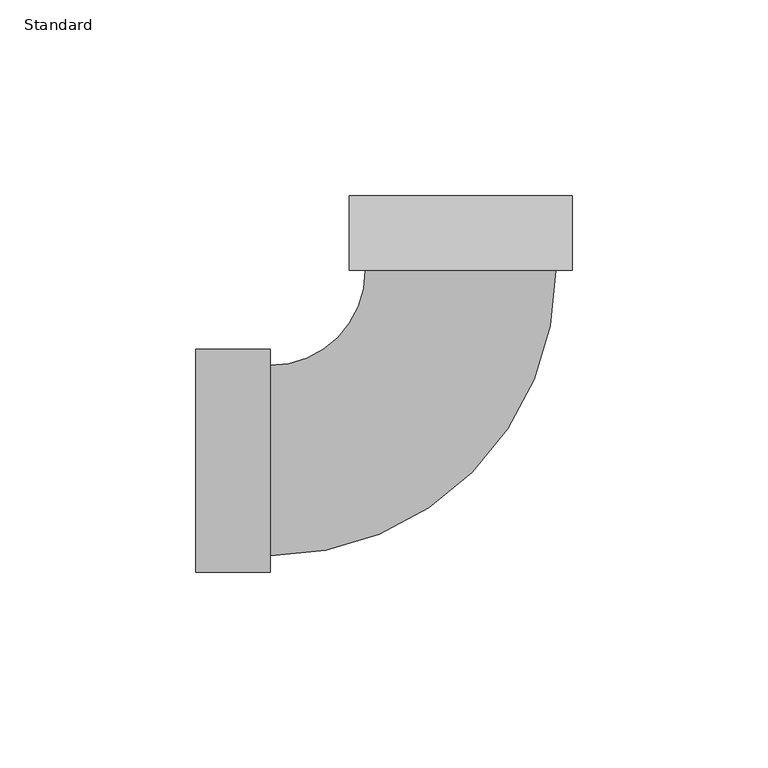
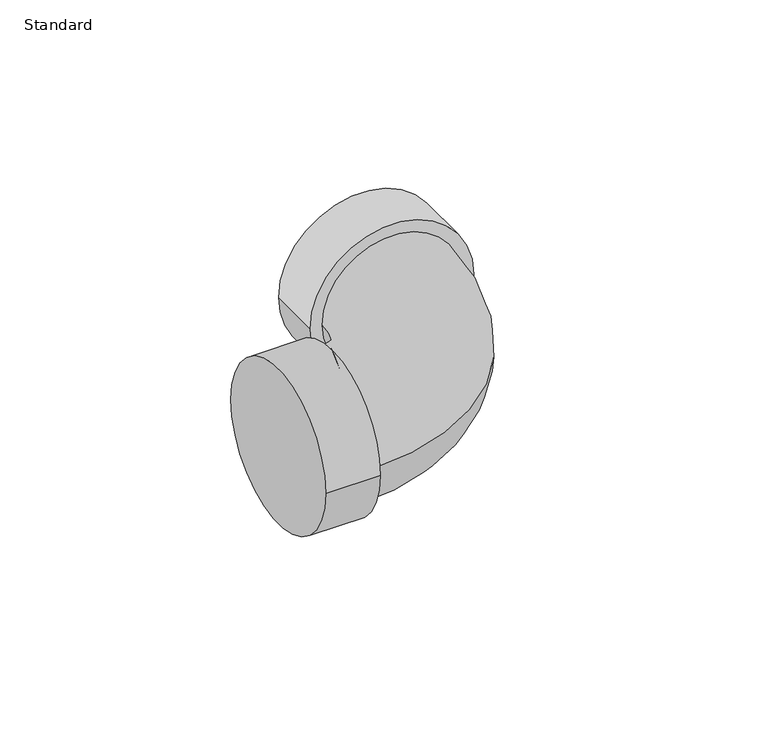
"""IFC4 building model written with IfcOpenShell, lengths in millimetres: pipe fitting geometry, Elbow_45_90-Lubrizol-CPVC-FlowGuard_MX : Standard."""

import ifcopenshell
import ifcopenshell.guid

model = None  # the IFC model being written
_history = None  # IfcOwnerHistory: only IFC2X3 demands one
_inside = {}  # id of a spatial element -> (the spatial element, [elements in it])
_under = {}  # id of a project, library or spatial element -> (it, [spatial elements below it])
_declared = {}  # id of a project -> (the project, [libraries it declares])
_typed = {}  # id of a type object -> (the type object, [elements of that type])
_made_of = {}  # id of a material, layer set ... -> (it, [elements and type objects made of it])


def new_model(schema):
    """Start an empty IFC model of exactly this schema.

    Asked for "IFC4X3", IfcOpenShell would pick the latest addendum, in which some entities
    have other attributes; the version numbers below select the first issue.
    IFC2X3 requires an IfcOwnerHistory on every rooted entity: one is made here for all.
    """
    global model, _history
    if schema == "IFC4X3":
        model = ifcopenshell.file(schema_version=(4, 3, 0, 0))
    else:
        model = ifcopenshell.file(schema=schema)
    _inside.clear()
    _under.clear()
    _declared.clear()
    _typed.clear()
    _made_of.clear()
    _history = None
    if model.schema == "IFC2X3":
        org = make("IfcOrganization", Name="unknown")
        user = make(
            "IfcPersonAndOrganization",
            ThePerson=make("IfcPerson", FamilyName="unknown"),
            TheOrganization=org,
        )
        app = make(
            "IfcApplication",
            ApplicationDeveloper=org,
            Version="unknown",
            ApplicationFullName="unknown",
            ApplicationIdentifier="unknown",
        )
        _history = make(
            "IfcOwnerHistory",
            OwningUser=user,
            OwningApplication=app,
            ChangeAction="ADDED",
            CreationDate=0,
        )
    return model


def make(cls, **values):
    """One entity of the class cls with the attributes given. An attribute that is None is left unset."""
    return model.create_entity(
        cls, **{name: value for name, value in values.items() if value is not None}
    )


def rooted(cls, **values):
    """An entity with a GlobalId (a new one), such as an element, a storey or a relation."""
    return make(cls, GlobalId=ifcopenshell.guid.new(), OwnerHistory=_history, **values)


def si_unit(unit_type, name, prefix=None):
    """IfcSIUnit, for example si_unit("LENGTHUNIT", "METRE", prefix="MILLI")."""
    return make("IfcSIUnit", UnitType=unit_type, Prefix=prefix, Name=name)


def assignment(units):
    """IfcUnitAssignment: the units of a project."""
    return None if units is None else make("IfcUnitAssignment", Units=units)


def point(xyz):
    """IfcCartesianPoint."""
    return None if xyz is None else make("IfcCartesianPoint", Coordinates=xyz)


def direction(xyz):
    """IfcDirection."""
    return None if xyz is None else make("IfcDirection", DirectionRatios=xyz)


def frame(location, z_axis=None, x_axis=None):
    """IfcAxis2Placement3D, a coordinate frame: its origin and axes. An axis left out is left unset."""
    return make(
        "IfcAxis2Placement3D",
        Location=point(location),
        Axis=direction(z_axis),
        RefDirection=direction(x_axis),
    )


def origin():
    """The frame at (0, 0, 0) with its axes left unset."""
    return frame((0.0, 0.0, 0.0))


def place(relative_to, where):
    """IfcLocalPlacement: puts the frame where relative to a parent placement (None: the world)."""
    return make(
        "IfcLocalPlacement", PlacementRelTo=relative_to, RelativePlacement=where
    )


def context(
    kind, dimensions, precision=None, world=None, true_north=None, identifier=None
):
    """IfcGeometricRepresentationContext, for example the 3D "Model" context."""
    return make(
        "IfcGeometricRepresentationContext",
        ContextIdentifier=identifier,
        ContextType=kind,
        CoordinateSpaceDimension=dimensions,
        Precision=precision,
        WorldCoordinateSystem=world,
        TrueNorth=true_north,
    )


def project(units=None, contexts=None):
    """IfcProject with its units and contexts."""
    return rooted(
        "IfcProject",
        Name="project",
        RepresentationContexts=contexts,
        UnitsInContext=assignment(units),
    )


def spatial(cls, under=None, at=None, **own):
    """A site, building, storey or space (cls), placed at a placement, below another one or the project."""
    s = rooted(cls, ObjectPlacement=at, **own)
    if under is not None:
        _under.setdefault(under.id(), (under, []))[1].append(s)
    return s


def circle_curve(where, radius):
    """IfcCircle in the frame where."""
    return make("IfcCircle", Position=where, Radius=radius)


def ellipse_curve(where, semi_axis1, semi_axis2):
    """IfcEllipse in the frame where."""
    return make(
        "IfcEllipse", Position=where, SemiAxis1=semi_axis1, SemiAxis2=semi_axis2
    )


def trimmed(basis, trim1, trim2, sense, master):
    """IfcTrimmedCurve: the piece of a basis curve between two trims."""
    return make(
        "IfcTrimmedCurve",
        BasisCurve=basis,
        Trim1=trim1,
        Trim2=trim2,
        SenseAgreement=sense,
        MasterRepresentation=master,
    )


def shape(context_of_items, identifier, shape_type, items):
    """IfcShapeRepresentation: the items that make up one representation, for example the "Body"."""
    return make(
        "IfcShapeRepresentation",
        ContextOfItems=context_of_items,
        RepresentationIdentifier=identifier,
        RepresentationType=shape_type,
        Items=items,
    )


def source(mapping_origin, context_of_items, identifier, shape_type, items):
    """IfcRepresentationMap: a shape defined once, which mapped items show again and again."""
    return make(
        "IfcRepresentationMap",
        MappingOrigin=mapping_origin,
        MappedRepresentation=shape(context_of_items, identifier, shape_type, items),
    )


def transform(
    local_origin,
    x_axis=None,
    y_axis=None,
    z_axis=None,
    scale=None,
    scale2=None,
    scale3=None,
    uniform=True,
):
    """IfcCartesianTransformationOperator3D, or its non-uniform kind. x_axis, y_axis, z_axis: its Axis1, 2, 3."""
    if uniform:
        return make(
            "IfcCartesianTransformationOperator3D",
            Axis1=direction(x_axis),
            Axis2=direction(y_axis),
            LocalOrigin=point(local_origin),
            Scale=scale,
            Axis3=direction(z_axis),
        )
    return make(
        "IfcCartesianTransformationOperator3DnonUniform",
        Axis1=direction(x_axis),
        Axis2=direction(y_axis),
        LocalOrigin=point(local_origin),
        Scale=scale,
        Axis3=direction(z_axis),
        Scale2=scale2,
        Scale3=scale3,
    )


def mapped(mapping_source, mapping_target):
    """IfcMappedItem: shows the shape of a source again, moved by a transform."""
    return make(
        "IfcMappedItem", MappingSource=mapping_source, MappingTarget=mapping_target
    )


def made_of(thing, what):
    """Note that an element or type object is made of a material, layer set ...; save() writes the relation."""
    if what is not None:
        _made_of.setdefault(what.id(), (what, []))[1].append(thing)
    return thing


def element(
    cls,
    number,
    at=None,
    inside=None,
    cuts=None,
    type_object=None,
    material=None,
    context=None,
    identifier="Body",
    shape_type=None,
    held_by="IfcProductDefinitionShape",
    body=None,
    shapes=None,
    **own,
):
    """One element of the class cls, such as IfcWall. Its Tag is "e" and its number.

    at: its placement. inside: the storey or other place that contains it. cuts: it is an
    opening in that element (IfcRelVoidsElement). A single representation is given by context,
    identifier, shape_type and body (its items); several are given by shapes. held_by: the class
    of the entity that holds the representations. save() writes the other relations.
    """
    e = rooted(cls, Tag="e%d" % number, ObjectPlacement=at, **own)
    if body is not None:
        shapes = [shape(context, identifier, shape_type, body)]
    if shapes is not None:
        e.Representation = make(held_by, Representations=shapes)
    if inside is not None:
        _inside.setdefault(inside.id(), (inside, []))[1].append(e)
    if cuts is not None:
        rooted(
            "IfcRelVoidsElement", RelatingBuildingElement=cuts, RelatedOpeningElement=e
        )
    if type_object is not None:
        _typed.setdefault(type_object.id(), (type_object, []))[1].append(e)
    return made_of(e, material)


def aggregate(whole, parts):
    """IfcRelAggregates: a whole, such as a stair, and the parts it consists of."""
    return rooted("IfcRelAggregates", RelatingObject=whole, RelatedObjects=parts)


def save(model, path):
    """Write the relations noted so far, then the file.

    IfcRelAggregates (storeys below a building ...), IfcRelContainedInSpatialStructure (elements
    in a storey), IfcRelDefinesByType, IfcRelAssociatesMaterial and IfcRelDeclares: one each for
    every whole, place, type object, material and project.
    """
    for whole, parts in _under.values():
        aggregate(whole, parts)
    for where, things in _inside.values():
        rooted(
            "IfcRelContainedInSpatialStructure",
            RelatedElements=things,
            RelatingStructure=where,
        )
    for kind, things in _typed.values():
        rooted("IfcRelDefinesByType", RelatedObjects=things, RelatingType=kind)
    for what, things in _made_of.values():
        rooted("IfcRelAssociatesMaterial", RelatedObjects=things, RelatingMaterial=what)
    for by, libraries in _declared.values():
        rooted("IfcRelDeclares", RelatingContext=by, RelatedDefinitions=libraries)
    model.write(path)


def plane_surface(at):
    """IfcPlane: the flat surface through the origin of the frame at, square to its z axis."""
    return make("IfcPlane", Position=at)


def cylinder_surface(at, radius):
    """IfcCylindricalSurface: all points at the distance radius from the z axis of the frame at."""
    return make("IfcCylindricalSurface", Position=at, Radius=radius)


def revolved_surface(curve, axis_point, axis_direction):
    """IfcSurfaceOfRevolution: the curve turned about the line through axis_point along axis_direction."""
    return make(
        "IfcSurfaceOfRevolution",
        SweptCurve=make("IfcArbitraryOpenProfileDef", ProfileType="CURVE", Curve=curve),
        AxisPosition=make("IfcAxis1Placement", Location=point(axis_point), Axis=direction(axis_direction)),
    )


def advanced_brep(points, edges, surfaces, faces):
    """IfcAdvancedBrep: a solid bounded by faces that lie on surfaces and meet in shared edges.

    An edge is (start, end): straight between two places in points (the first is 0);
    or (start, end, curve); or (start, end, curve, False) where it runs against its curve.
    A face is (place in surfaces, loops), or (place, loops, False) where it looks against
    its surface's normal. A loop lists edges by number (the first is 1), with a minus sign
    where the edge is run from its end to its start. The first loop is the outer one.
    """
    corners = [point(p) for p in points]
    vertices = [make("IfcVertexPoint", VertexGeometry=c) for c in corners]
    made = []
    for start, end, *more in edges:
        made.append(
            make(
                "IfcEdgeCurve",
                EdgeStart=vertices[start],
                EdgeEnd=vertices[end],
                EdgeGeometry=more[0] if more else make("IfcPolyline", Points=[corners[start], corners[end]]),
                SameSense=more[1] if len(more) > 1 else True,
            )
        )
    hull = []
    for where, loops, *sense in faces:
        bounds = []
        for j, loop in enumerate(loops):
            ring = [make("IfcOrientedEdge", EdgeElement=made[abs(k) - 1], Orientation=k > 0) for k in loop]
            bounds.append(
                make(
                    "IfcFaceOuterBound" if j == 0 else "IfcFaceBound",
                    Bound=make("IfcEdgeLoop", EdgeList=ring),
                    Orientation=True,
                )
            )
        hull.append(make("IfcAdvancedFace", Bounds=bounds, FaceSurface=surfaces[where], SameSense=sense[0] if sense else True))
    return make("IfcAdvancedBrep", Outer=make("IfcClosedShell", CfsFaces=hull))


def standard_cdc0e50c(model_context):
    return source(origin(), model_context, "Body", "AdvancedBrep", [
        advanced_brep(
        [(-67.6940625, -28.5071094, 0.0), (-67.6940625, 28.5071094, 0.0), (-48.6940625, -28.5071094, 0.0), (-48.6940625, 28.5071094, 0.0), (-48.6940625, -24.3240625, 0.0), (-48.6940625, 24.3240625, 0.0), (-24.3240625, 48.6940625, 0.0), (24.3240625, 48.6940625, 0.0), (28.5071094, 48.6940625, 0.0), (-28.5071094, 48.6940625, 0.0), (28.5071094, 67.6940625, 0.0), (-28.5071094, 67.6940625, 0.0)],
        [
            (0, 1, circle_curve(frame((-67.6940625, 0.0, 0.0), z_axis=(-1.0, 0.0, 0.0), x_axis=(0.0, 1.0, 0.0)), 28.5071094)),
            (1, 0, circle_curve(frame((-67.6940625, 0.0, 0.0), z_axis=(-1.0, 0.0, 0.0), x_axis=(0.0, 1.0, 0.0)), 28.5071094)),
            (2, 3, circle_curve(frame((-48.6940625, 0.0, 0.0), z_axis=(1.0, 0.0, 0.0), x_axis=(0.0, 1.0, 0.0)), 28.5071094)),
            (3, 2, circle_curve(frame((-48.6940625, 0.0, 0.0), z_axis=(1.0, 0.0, 0.0), x_axis=(0.0, 1.0, 0.0)), 28.5071094)),
            (4, 5, circle_curve(frame((-48.6940625, 0.0, 0.0), z_axis=(-1.0, 0.0, 0.0), x_axis=(0.0, 1.0, 0.0)), 24.3240625)),
            (5, 4, circle_curve(frame((-48.6940625, 0.0, 0.0), z_axis=(-1.0, 0.0, 0.0), x_axis=(0.0, 1.0, 0.0)), 24.3240625)),
            (0, 2),
            (3, 1),
            (6, 5, circle_curve(frame((-48.6940625, 48.6940625, 0.0), z_axis=(0.0, 0.0, -1.0), x_axis=(0.0, -1.0, 0.0)), 24.37)),
            (4, 7, circle_curve(frame((-48.6940625, 48.6940625, 0.0), z_axis=(0.0, 0.0, 1.0), x_axis=(0.0, -1.0, 0.0)), 73.018125)),
            (7, 6, circle_curve(frame((0.0, 48.6940625, 0.0), z_axis=(0.0, -1.0, 0.0), x_axis=(-1.0, 0.0, 0.0)), 24.3240625)),
            (6, 7, circle_curve(frame((0.0, 48.6940625, 0.0), z_axis=(0.0, -1.0, 0.0), x_axis=(-1.0, 0.0, 0.0)), 24.3240625)),
            (8, 9, circle_curve(frame((0.0, 48.6940625, 0.0), z_axis=(0.0, -1.0, 0.0), x_axis=(-1.0, 0.0, 0.0)), 28.5071094)),
            (9, 8, circle_curve(frame((0.0, 48.6940625, 0.0), z_axis=(0.0, -1.0, 0.0), x_axis=(-1.0, 0.0, 0.0)), 28.5071094)),
            (10, 11, circle_curve(frame((0.0, 67.6940625, 0.0), z_axis=(0.0, 1.0, 0.0), x_axis=(-1.0, 0.0, 0.0)), 28.5071094)),
            (11, 10, circle_curve(frame((0.0, 67.6940625, 0.0), z_axis=(0.0, 1.0, 0.0), x_axis=(-1.0, 0.0, 0.0)), 28.5071094)),
            (8, 10),
            (11, 9),
        ],
        [
            plane_surface(frame((-67.6940625, 0.0, 0.0), z_axis=(-1.0, 0.0, 0.0), x_axis=(0.0, 0.0, 1.0))),
            plane_surface(frame((-48.6940625, 0.0, 0.0), z_axis=(1.0, 0.0, 0.0), x_axis=(0.0, 0.0, 1.0))),
            cylinder_surface(frame((-67.6940625, 0.0, 0.0), z_axis=(-1.0, 0.0, 0.0), x_axis=(0.0, 1.0, 0.0)), 28.5071094),
            revolved_surface(trimmed(ellipse_curve(frame((-48.6940625, 0.0, 0.0), z_axis=(-1.0, 0.0, 0.0), x_axis=(0.0, 1.0, 0.0)), 24.3240625, 24.3240625), [point((-48.6940625, -24.3240625, 0.0))], [point((-48.6940625, 24.3240625, 0.0))], True, "CARTESIAN"), (-48.6940625, 48.6940625, 0.0), (0.0, 0.0, 1.0)),
            revolved_surface(trimmed(ellipse_curve(frame((-48.6940625, 0.0, 0.0), z_axis=(-1.0, 0.0, 0.0), x_axis=(0.0, 1.0, 0.0)), 24.3240625, 24.3240625), [point((-48.6940625, 24.3240625, 0.0))], [point((-48.6940625, -24.3240625, 0.0))], True, "CARTESIAN"), (-48.6940625, 48.6940625, 0.0), (0.0, 0.0, 1.0)),
            plane_surface(frame((0.0, 48.6940625, 0.0), z_axis=(0.0, -1.0, 0.0), x_axis=(0.0, 0.0, 1.0))),
            plane_surface(frame((0.0, 67.6940625, 0.0), z_axis=(0.0, 1.0, 0.0), x_axis=(0.0, 0.0, 1.0))),
            cylinder_surface(frame((0.0, 48.6940625, 0.0), z_axis=(0.0, -1.0, 0.0), x_axis=(-1.0, 0.0, 0.0)), 28.5071094),
        ],
        [
            (0, [[1, 2]]),
            (1, [[3, 4], [5, 6]]),
            (2, [[-1, 7, -4, 8]]),
            (2, [[-2, -8, -3, -7]]),
            (3, [[9, -5, 10, 11]]),
            (4, [[-9, 12, -10, -6]]),
            (5, [[13, 14], [-11, -12]]),
            (6, [[15, 16]]),
            (7, [[-13, 17, -16, 18]]),
            (7, [[-14, -18, -15, -17]]),
        ],
    ),
    ])


if __name__ == "__main__":
    model = new_model("IFC4")
    model_context = context("Model", 3, world=origin())
    ifc_project = project(units=[si_unit("LENGTHUNIT", "METRE", prefix="MILLI")], contexts=[model_context])
    site = spatial("IfcSite", under=ifc_project)
    building = spatial("IfcBuilding", under=site)
    placement = place(None, origin())
    standard_shape = standard_cdc0e50c(model_context)
    element("IfcPipeFitting", 1, ObjectType="Elbow_45_90-Lubrizol-CPVC-FlowGuard_MX : Standard", at=placement, inside=building, context=model_context, shape_type="MappedRepresentation", body=[
        mapped(standard_shape, transform((0.0, 0.0, 0.0), x_axis=(1.0, 0.0, 0.0), y_axis=(0.0, 1.0, 0.0), z_axis=(0.0, 0.0, 1.0))),
    ])
    save(model, "model.ifc")
